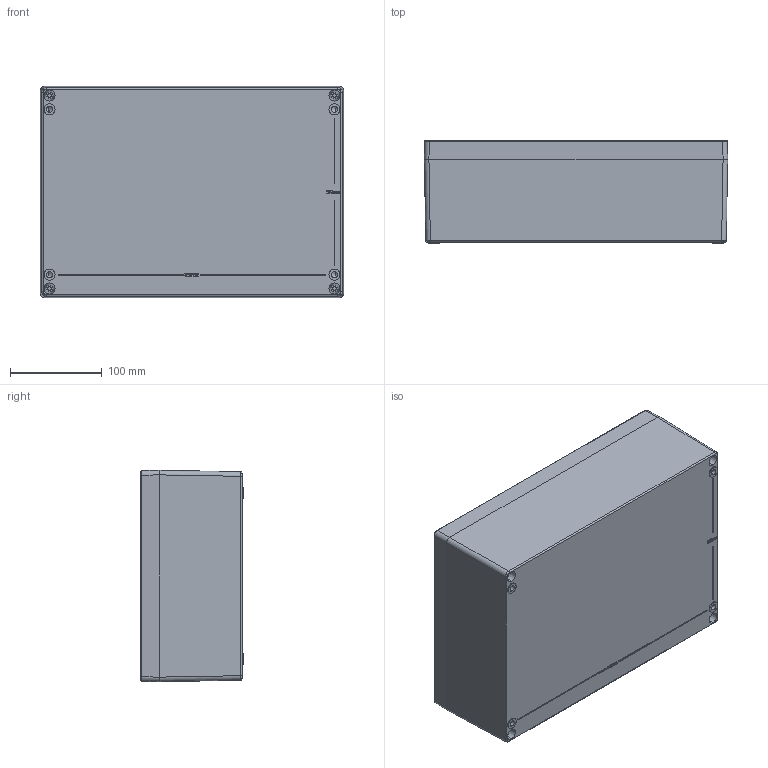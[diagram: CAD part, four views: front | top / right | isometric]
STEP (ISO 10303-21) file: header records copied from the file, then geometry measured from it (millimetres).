
FILE_DESCRIPTION (( 'STEP AP214' ), '1' );
FILE_NAME ('Zag 16.STEP', '2016-05-03T08:48:20', ( '' ), ( '' ), 'SwSTEP 2.0', 'SolidWorks 2015', '' );
FILE_SCHEMA (( 'AUTOMOTIVE_DESIGN' ));
Length unit declared in the file: millimetre
Products named in the file (4): Zag 16; pan head cross recess screw_bsi_ISO 7045 - M5 x 25 - Z --- 25N; Zag 16 Lid; Zag 16 Body
Assembly tree (6 placements, depth 2):
  Zag 16
    Zag 16 Body
    Zag 16 Lid
    pan head cross recess screw_bsi_ISO 7045 - M5 x 25 - Z --- 25N  x4
Bounding box: 330 x 111.2 x 230 mm (x, y, z)
Volume: 1314133.4 mm3; surface area: 564647.2 mm2
Topology: 6 solids, 6 shells, 803 faces, 2102 edges, 1355 vertices
Faces by surface type: plane 378, cylinder 166, bspline 161, cone 72, torus 18, sphere 8
Entity records: 29094 total; most frequent: CARTESIAN_POINT 12333, ORIENTED_EDGE 3620, DIRECTION 2844, EDGE_CURVE 1810, VERTEX_POINT 1202, LINE 1086, VECTOR 1086, AXIS2_PLACEMENT_3D 879
